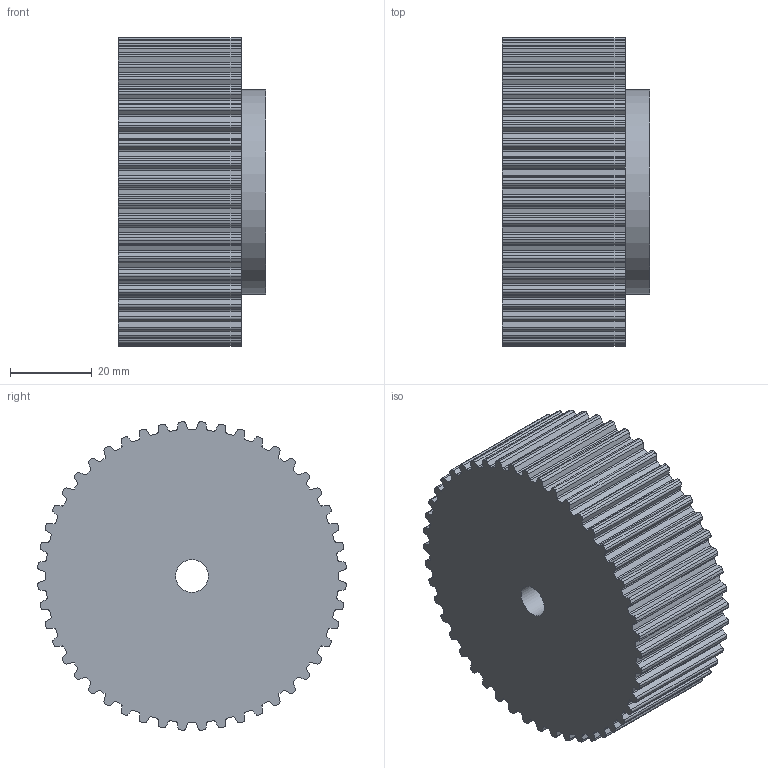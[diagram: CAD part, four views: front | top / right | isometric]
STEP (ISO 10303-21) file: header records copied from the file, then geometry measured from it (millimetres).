
FILE_DESCRIPTION( ( 'STEP AP203' ), '1' );
FILE_NAME( 'C:/Users/Stangenbergd/Documents/CAD_Step/1/16244800.stp', '2020-09-13T08:23:02', ( 'License CC BY-ND 4.0' ), ( 'CADENAS' ), ' ', 'PARTsolutions', ' ' );
FILE_SCHEMA( ( 'CONFIG_CONTROL_DESIGN' ) );
Length unit declared in the file: millimetre
Products named in the file (1): _16244800
Bounding box: 36 x 75.43 x 75.43 mm (x, y, z)
Volume: 137047.6 mm3; surface area: 20637 mm2
Topology: 1 solids, 1 shells, 389 faces, 1158 edges, 772 vertices
Faces by surface type: cylinder 242, plane 147
Full cylindrical faces by diameter (mm): 8 x1, 50 x1
Entity records: 13294 total; most frequent: DIRECTION 2420, CARTESIAN_POINT 2318, ORIENTED_EDGE 2312, EDGE_CURVE 1156, AXIS2_PLACEMENT_3D 874, VERTEX_POINT 772, LINE 672, VECTOR 672
